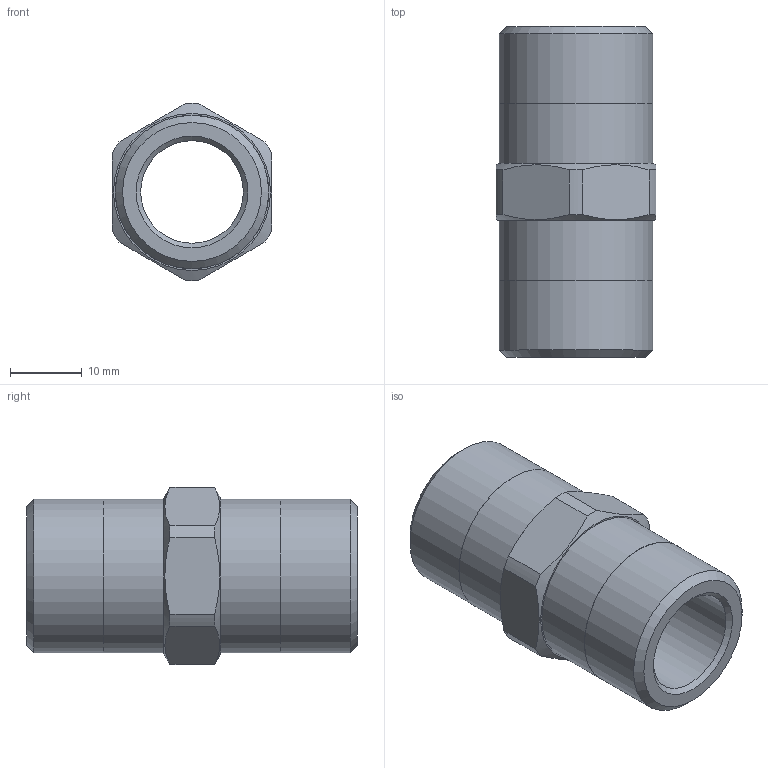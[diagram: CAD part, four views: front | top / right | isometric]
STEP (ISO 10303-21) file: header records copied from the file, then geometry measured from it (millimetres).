
FILE_DESCRIPTION(/* description */ (''),/* implementation_level */ '2;1');
FILE_NAME(/* name */ 'C:/Users/drich/Desktop/HN-50 v1.step',/* time_stamp */ '2020-02-09T10:57:09-06:00',/* author */ (''),/* organization */ (''),/* preprocessor_version */ 'ST-DEVELOPER v18',/* originating_system */ 'Autodesk Translation Framework v8.12.0.6',/* authorisation */ '');
FILE_SCHEMA (('AUTOMOTIVE_DESIGN { 1 0 10303 214 3 1 1 }'));
Length unit declared in the file: inch
Products named in the file (1): HN-50
Bounding box: 22.23 x 46.02 x 24.63 mm (x, y, z)
Volume: 9533.1 mm3; surface area: 5579.8 mm2
Topology: 1 solids, 1 shells, 29 faces, 75 edges, 52 vertices
Faces by surface type: plane 12, cylinder 11, cone 6
Full cylindrical faces by diameter (mm): 14.275 x1, 21.336 x2, 21.387 x2
Entity records: 951 total; most frequent: CARTESIAN_POINT 181, DIRECTION 163, ORIENTED_EDGE 150, EDGE_CURVE 75, AXIS2_PLACEMENT_3D 70, VERTEX_POINT 52, CIRCLE 40, EDGE_LOOP 35
